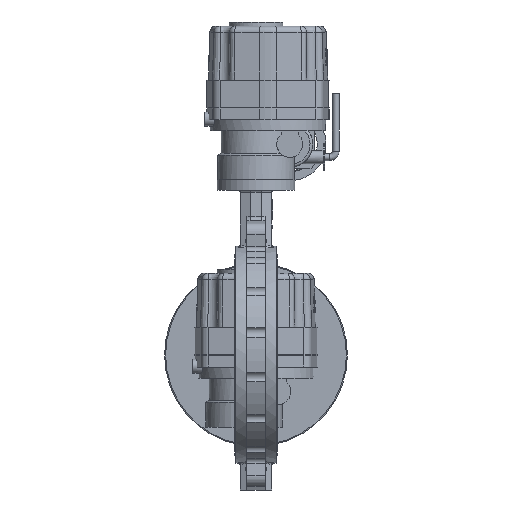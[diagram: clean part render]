
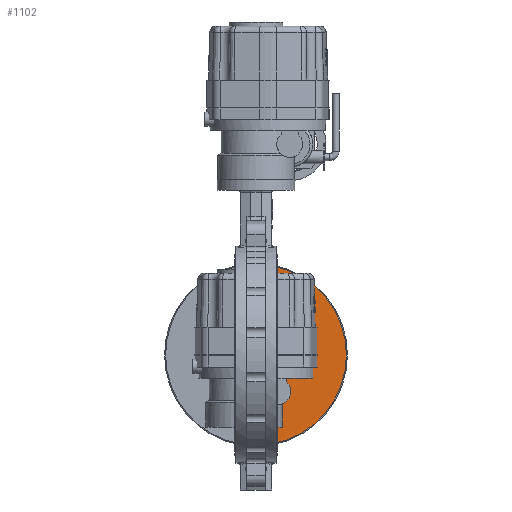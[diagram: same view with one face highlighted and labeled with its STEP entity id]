
A CAD part, left-side view. The second image highlights one B-rep face of the part: STEP entity #1102.
In plain terms, the highlighted planar face has unit normal (-1, 0, 0).
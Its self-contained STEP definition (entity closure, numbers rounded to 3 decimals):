
#1102 = ADVANCED_FACE( '', ( #2569 ), #2570, .T. );
#2569 = FACE_OUTER_BOUND( '', #6244, .T. );
#2570 = PLANE( '', #6245 );
#6244 = EDGE_LOOP( '', ( #12499, #12500 ) );
#6245 = AXIS2_PLACEMENT_3D( '', #12501, #12502, #12503 );
#12499 = ORIENTED_EDGE( '', *, *, #16277, .T. );
#12500 = ORIENTED_EDGE( '', *, *, #15509, .T. );
#12501 = CARTESIAN_POINT( '', ( -5.5, 0., 0. ) );
#12502 = DIRECTION( '', ( -1., 0., 0. ) );
#12503 = DIRECTION( '', ( 0., -1., 0. ) );
#15509 = EDGE_CURVE( '', #17585, #17590, #17592, .T. );
#16277 = EDGE_CURVE( '', #17590, #17585, #18872, .F. );
#17585 = VERTEX_POINT( '', #20957 );
#17590 = VERTEX_POINT( '', #20962 );
#17592 = CIRCLE( '', #20964, 174. );
#18872 = LINE( '', #26023, #26024 );
#20957 = CARTESIAN_POINT( '', ( -5.5, -30.854, -171.243 ) );
#20962 = CARTESIAN_POINT( '', ( -5.5, -30.854, 171.243 ) );
#20964 = AXIS2_PLACEMENT_3D( '', #31591, #31592, #31593 );
#26023 = CARTESIAN_POINT( '', ( -5.5, -30.854, -174.642 ) );
#26024 = VECTOR( '', #32324, 1000. );
#31591 = CARTESIAN_POINT( '', ( -5.5, 0., 0. ) );
#31592 = DIRECTION( '', ( -1., 0., 0. ) );
#31593 = DIRECTION( '', ( 0., -1., 0. ) );
#32324 = DIRECTION( '', ( 0., 0., 1. ) );
